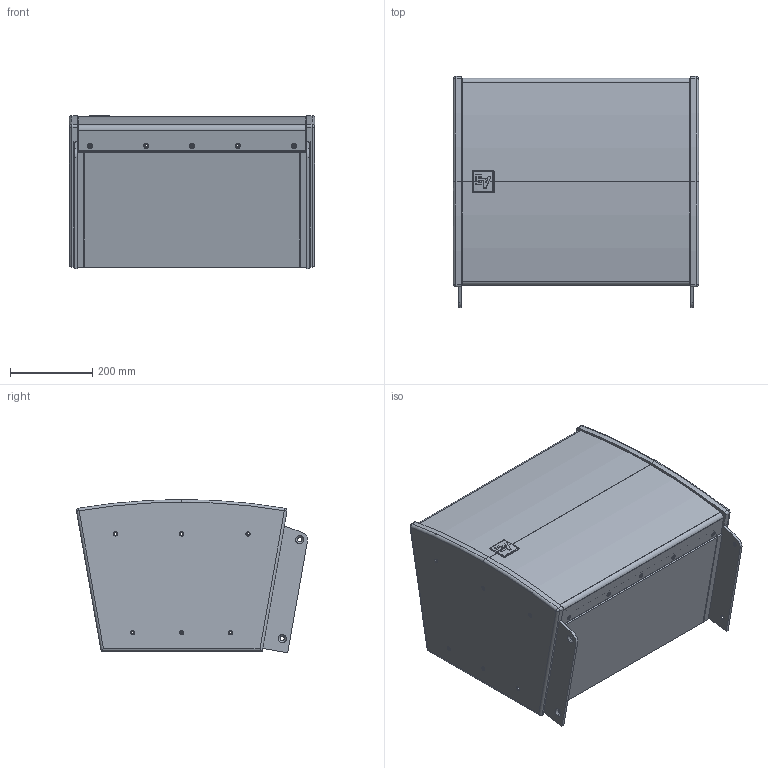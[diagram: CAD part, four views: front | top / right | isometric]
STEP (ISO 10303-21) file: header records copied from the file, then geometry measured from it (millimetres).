
FILE_DESCRIPTION (( 'STEP AP214' ), '1' );
FILE_NAME ('EVA-2082S-1220 Middle Element With Extended Grid.STEP', '2023-03-14T06:33:01', ( '' ), ( '' ), 'SwSTEP 2.0', 'SolidWorks 2021', '' );
FILE_SCHEMA (( 'AUTOMOTIVE_DESIGN' ));
Length unit declared in the file: millimetre
Products named in the file (11): EVA-2082S-1220 Back Plate; EVA-2082S-1220 Middle Element With Extended Grid; EVA-2082S-1220 Grille; EVA-2082S-1220 EV Logo; EVA-2082S-1220 Rear Panel; EVA-2082S-1220 Side Plate; EVA-2082S-1220 Cover Plate; EVA-2082S-1220 Enclosure Assembly; EVA-2082S-1220 Top And Bottom Plate; EVA-2082S-1220 Extended Grid
Assembly tree (13 placements, depth 3):
  EVA-2082S-1220 Middle Element With Extended Grid
    EVA-2082S-1220 Enclosure Assembly
      EVA-2082S-1220 Side Plate
      EVA-2082S-1220 Side Plate
      EVA-2082S-1220 Back Plate
      EVA-2082S-1220 Top And Bottom Plate  x2
    EVA-2082S-1220 Grille
    EVA-2082S-1220 EV Logo
    EVA-2082S-1220 Rear Panel
    EVA-2082S-1220 Extended Grid  x2
    EVA-2082S-1220 Cover Plate  x2
Bounding box: 596.9 x 562.33 x 374.01 mm (x, y, z)
Volume: 21239340.4 mm3; surface area: 3578390.8 mm2
Topology: 12 solids, 12 shells, 831 faces, 2130 edges, 1345 vertices
Faces by surface type: plane 286, cylinder 260, bspline 133, cone 108, torus 44
Entity records: 26380 total; most frequent: CARTESIAN_POINT 8953, ORIENTED_EDGE 3646, DIRECTION 3360, EDGE_CURVE 1823, AXIS2_PLACEMENT_3D 1241, VERTEX_POINT 1154, LINE 878, VECTOR 878
